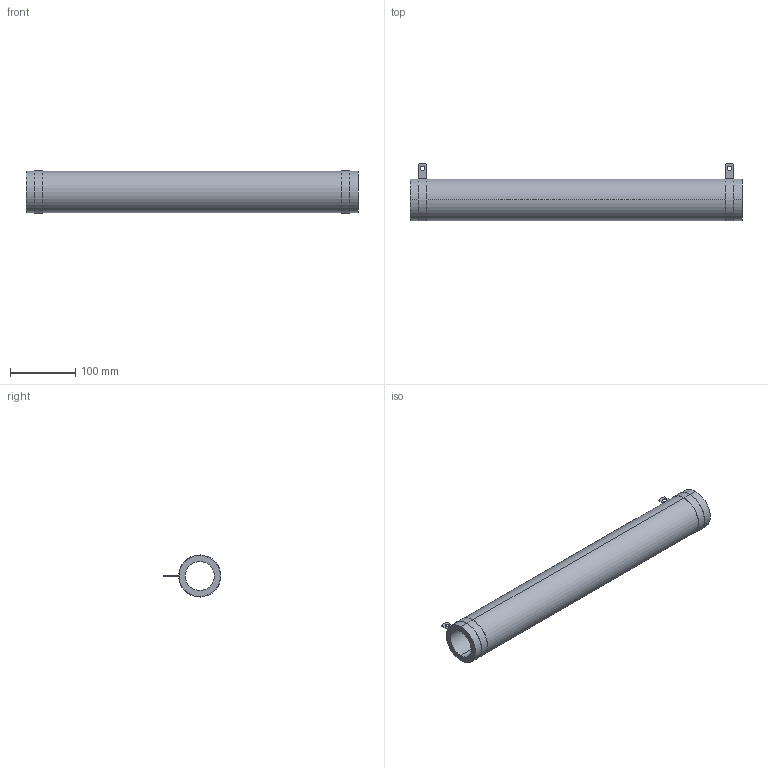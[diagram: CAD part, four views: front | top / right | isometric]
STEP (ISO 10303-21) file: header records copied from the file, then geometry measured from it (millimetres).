
FILE_DESCRIPTION (( 'STEP AP203' ), '1' );
FILE_NAME ('RBSF1500xxxxxKGB00.STEP', '2014-04-04T19:11:15', ( '' ), ( '' ), 'SwSTEP 2.0', 'SolidWorks 2012', '' );
FILE_SCHEMA (( 'CONFIG_CONTROL_DESIGN' ));
Length unit declared in the file: millimetre
Products named in the file (3): DAL013-08_DAL013-144; DAL15-182-XXX_DAL15-182-340; RBSF1500xxxxxKGB00
Assembly tree (3 placements, depth 2):
  RBSF1500xxxxxKGB00
    DAL013-08_DAL013-144
    DAL15-182-XXX_DAL15-182-340  x2
Bounding box: 508 x 88.22 x 64.4 mm (x, y, z)
Volume: 823283.6 mm3; surface area: 188257.6 mm2
Topology: 3 solids, 3 shells, 76 faces, 162 edges, 92 vertices
Faces by surface type: plane 46, cylinder 30
Entity records: 1432 total; most frequent: DIRECTION 215, CARTESIAN_POINT 184, ORIENTED_EDGE 174, EDGE_CURVE 87, AXIS2_PLACEMENT_3D 81, LINE 53, VECTOR 53, VERTEX_POINT 50
